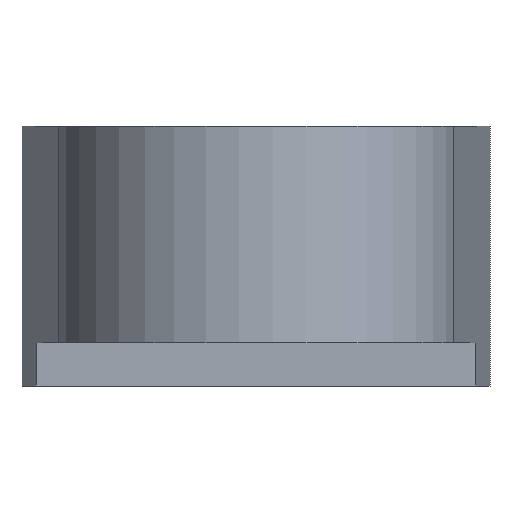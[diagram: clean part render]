
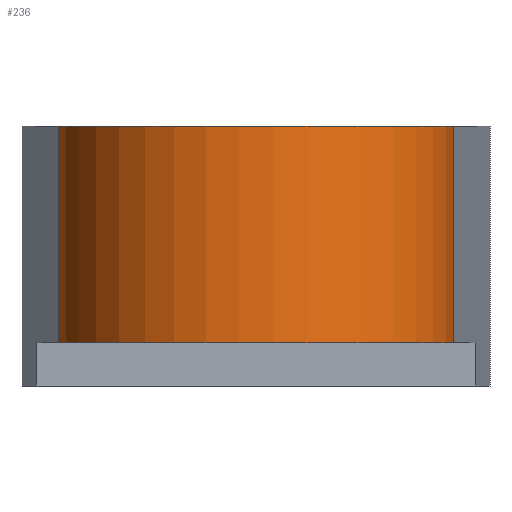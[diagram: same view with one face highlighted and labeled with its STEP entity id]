
A CAD part, left-side view. The second image highlights one B-rep face of the part: STEP entity #236.
In plain terms, the highlighted cylindrical face has radius 23 mm (diameter 46 mm), a partial arc.
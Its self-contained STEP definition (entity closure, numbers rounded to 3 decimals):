
#145=CYLINDRICAL_SURFACE('',#914,23.);
#168=CIRCLE('',#864,23.);
#195=CIRCLE('',#913,23.);
#236=ADVANCED_FACE('',(#285),#145,.T.);
#285=FACE_OUTER_BOUND('',#342,.T.);
#342=EDGE_LOOP('',(#520,#521,#522,#523));
#520=ORIENTED_EDGE('',*,*,#717,.F.);
#521=ORIENTED_EDGE('',*,*,#716,.T.);
#522=ORIENTED_EDGE('',*,*,#667,.F.);
#523=ORIENTED_EDGE('',*,*,#709,.F.);
#585=VERTEX_POINT('',#1251);
#586=VERTEX_POINT('',#1253);
#615=VERTEX_POINT('',#1342);
#619=VERTEX_POINT('',#1354);
#667=EDGE_CURVE('',#585,#586,#168,.T.);
#709=EDGE_CURVE('',#615,#585,#766,.T.);
#716=EDGE_CURVE('',#619,#586,#773,.T.);
#717=EDGE_CURVE('',#619,#615,#195,.T.);
#766=LINE('',#1343,#816);
#773=LINE('',#1356,#823);
#816=VECTOR('',#1122,1.);
#823=VECTOR('',#1133,1.);
#864=AXIS2_PLACEMENT_3D('',#1252,#1015,#1016);
#913=AXIS2_PLACEMENT_3D('',#1358,#1136,#1137);
#914=AXIS2_PLACEMENT_3D('',#1359,#1138,#1139);
#1015=DIRECTION('',(0.,0.,1.));
#1016=DIRECTION('',(1.,0.,0.));
#1122=DIRECTION('',(0.,0.,1.));
#1133=DIRECTION('',(0.,0.,1.));
#1136=DIRECTION('',(0.,0.,-1.));
#1137=DIRECTION('',(1.,0.,0.));
#1138=DIRECTION('',(0.,0.,1.));
#1139=DIRECTION('',(-1.,0.,0.));
#1251=CARTESIAN_POINT('',(-3.085,22.792,30.));
#1252=CARTESIAN_POINT('',(0.,0.,30.));
#1253=CARTESIAN_POINT('',(-3.085,-22.792,30.));
#1342=CARTESIAN_POINT('',(-3.085,22.792,5.));
#1343=CARTESIAN_POINT('',(-3.085,22.792,0.));
#1354=CARTESIAN_POINT('',(-3.085,-22.792,5.));
#1356=CARTESIAN_POINT('',(-3.085,-22.792,0.));
#1358=CARTESIAN_POINT('',(0.,0.,5.));
#1359=CARTESIAN_POINT('',(0.,0.,0.));
